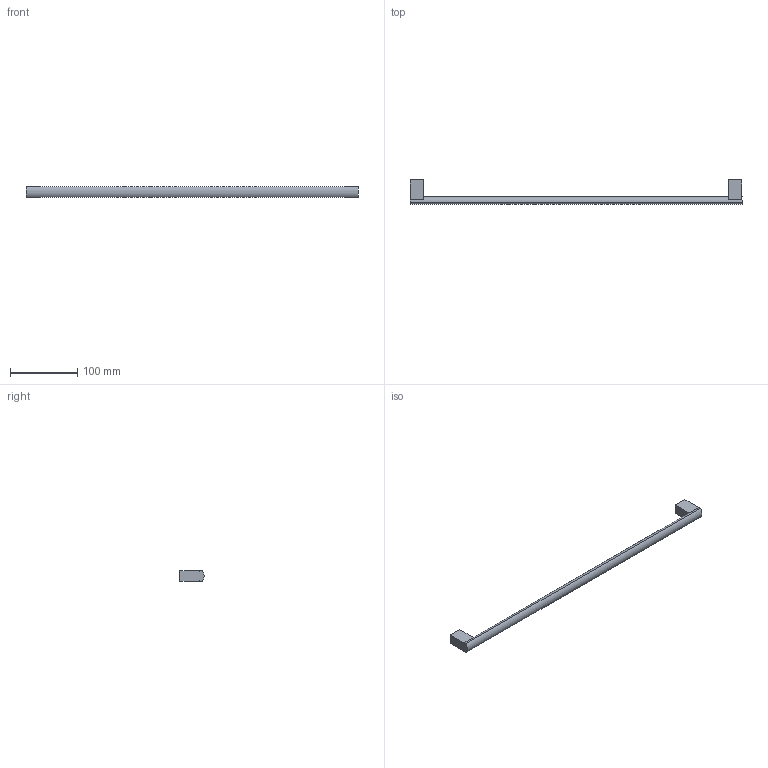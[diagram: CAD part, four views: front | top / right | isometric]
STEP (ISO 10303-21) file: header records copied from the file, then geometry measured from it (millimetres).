
FILE_DESCRIPTION( ( 'STEP AP214' ), '1' );
FILE_NAME( 'D:/Shahbaz D&D/Task/Check and correct handles with 3 drill sockets/Clivia/115361.stp', '2023-02-20T11:05:01', ( '' ), ( '' ), ' ', 'PARTsolutions', ' ' );
FILE_SCHEMA( ( 'AUTOMOTIVE_DESIGN { 1 0 10303 214 1 1 1 1 }' ) );
Length unit declared in the file: millimetre
Products named in the file (1): _115361
Bounding box: 494 x 35.96 x 16 mm (x, y, z)
Volume: 81533.2 mm3; surface area: 25387.1 mm2
Topology: 1 solids, 1 shells, 21 faces, 48 edges, 32 vertices
Faces by surface type: plane 17, cylinder 4
Full cylindrical faces by diameter (mm): 4 x2
Entity records: 768 total; most frequent: DIRECTION 102, CARTESIAN_POINT 100, ORIENTED_EDGE 92, EDGE_CURVE 46, AXIS2_PLACEMENT_3D 34, LINE 34, VECTOR 34, VERTEX_POINT 32
